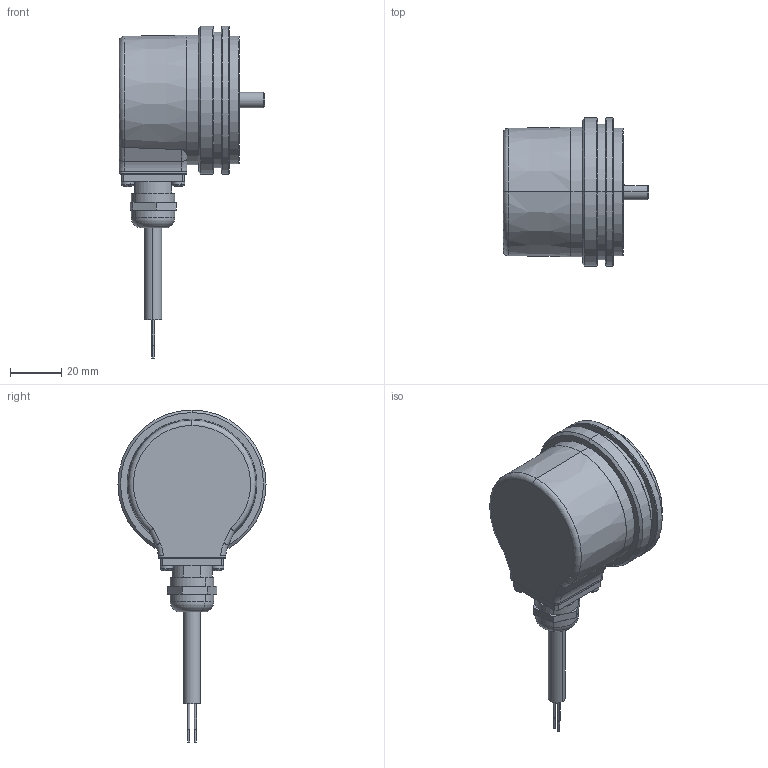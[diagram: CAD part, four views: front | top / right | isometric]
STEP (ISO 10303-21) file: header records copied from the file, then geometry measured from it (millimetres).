
FILE_DESCRIPTION (( 'STEP AP214' ), '1' );
FILE_NAME ('5000.B1X2.XXXX.STEP', '2009-01-07T10:48:04', ( 'admin' ), ( 'Fritz Kübler GmbH' ), 'SwSTEP 2.0', 'SolidWorks 2008', '' );
FILE_SCHEMA (( 'AUTOMOTIVE_DESIGN' ));
Length unit declared in the file: millimetre
Products named in the file (1): 5000.B1X2.XXXX
Bounding box: 57 x 58 x 130 mm (x, y, z)
Volume: 64270 mm3; surface area: 37264.6 mm2
Topology: 10 solids, 11 shells, 509 faces, 1199 edges, 724 vertices
Faces by surface type: plane 160, cylinder 157, cone 91, torus 61, sphere 30, bspline 10
Entity records: 20901 total; most frequent: CARTESIAN_POINT 3589, DIRECTION 2619, ORIENTED_EDGE 2266, EDGE_CURVE 1133, AXIS2_PLACEMENT_3D 1086, VERTEX_POINT 694, EDGE_LOOP 597, CIRCLE 586
